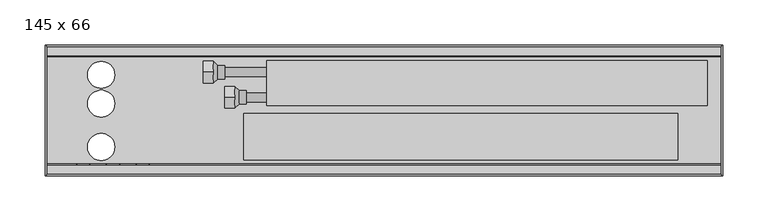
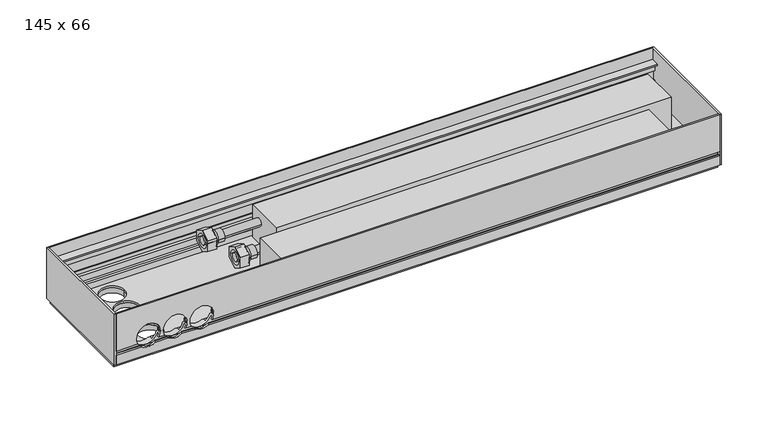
"""IFC4 building model written with IfcOpenShell, lengths in millimetres: proxy geometry, Mohlenhof_Внутрипольный конвектор_QSKM : 145 x 66."""

from ifc_helpers import new_model, si_unit, point, frame, frame_2d, origin, place, context, project, spatial, polyline, circle_curve, ellipse_curve, trimmed, segment, composite_curve, outline, extrude, source, transform, mapped, element, save
from ifc_brep_helpers import plane_surface, cylinder_surface, revolved_surface, advanced_brep


def proxy_145_x_66_6c518053(model_context):
    return source(origin(), model_context, "Body", "SolidModel", [
        advanced_brep(
        [(-165.0, -158.0, -47.5), (-165.0, -146.0, -47.5), (-165.0, -170.0, -47.5), (-152.5, -165.5, -47.5), (-152.5, -150.5, -47.5), (-152.5, -158.0, -47.5), (-160.0, -165.5, -47.5), (-160.0, -150.5, -47.5)],
        [
            (0, 1),
            (1, 2, circle_curve(frame((-165.0, -158.0, -47.5), z_axis=(-1.0, 0.0, 0.0), x_axis=(0.0, 1.0, 0.0)), 12.0)),
            (2, 0),
            (2, 1, circle_curve(frame((-165.0, -158.0, -47.5), z_axis=(-1.0, 0.0, 0.0), x_axis=(0.0, 1.0, 0.0)), 12.0)),
            (3, 4, circle_curve(frame((-152.5, -158.0, -47.5), z_axis=(1.0, 0.0, 0.0), x_axis=(0.0, 1.0, 0.0)), 7.5)),
            (4, 5),
            (5, 3),
            (4, 3, circle_curve(frame((-152.5, -158.0, -47.5), z_axis=(1.0, 0.0, 0.0), x_axis=(0.0, 1.0, 0.0)), 7.5)),
            (6, 7, circle_curve(frame((-160.0, -158.0, -47.5), z_axis=(1.0, 0.0, 0.0), x_axis=(0.0, 1.0, 0.0)), 7.5)),
            (7, 4),
            (3, 6),
            (7, 6, circle_curve(frame((-160.0, -158.0, -47.5), z_axis=(1.0, 0.0, 0.0), x_axis=(0.0, 1.0, 0.0)), 7.5)),
            (1, 7),
            (6, 2),
        ],
        [
            plane_surface(frame((-165.0, -158.0, -47.5), z_axis=(-1.0, 0.0, 0.0), x_axis=(0.0, 1.0, 0.0))),
            plane_surface(frame((-152.5, -158.0, -47.5), z_axis=(1.0, 0.0, 0.0), x_axis=(0.0, 1.0, 0.0))),
            cylinder_surface(frame((-165.0, -158.0, -47.5), z_axis=(-1.0, 0.0, 0.0), x_axis=(0.0, 1.0, 0.0)), 7.5),
            revolved_surface(polyline([(-160.0, -150.5, -47.5), (-165.0, -146.0, -47.5)]), (-165.0, -158.0, -47.5), (-1.0, 0.0, 0.0)),
        ],
        [
            (0, [[1, 2, 3]]),
            (0, [[-3, 4, -1]]),
            (1, [[5, 6, 7]]),
            (1, [[8, -7, -6]]),
            (2, [[9, 10, -5, 11]]),
            (2, [[12, -11, -8, -10]]),
            (3, [[-2, 13, -9, 14]]),
            (3, [[-4, -14, -12, -13]]),
        ],
    ),
        extrude(outline(polyline([(-158.0, -33.6435935), (-146.0, -40.5717968), (-146.0, -54.4282032), (-158.0, -61.3564065), (-170.0, -54.4282032), (-170.0, -40.5717968), (-158.0, -33.6435935)]), holes=[composite_curve([segment(trimmed(circle_curve(frame_2d((-158.0, -47.5)), 8.5), [point((-149.5, -47.5))], [point((-166.5, -47.5))], True, "CARTESIAN"), True, "CONTINUOUS"), segment(trimmed(circle_curve(frame_2d((-158.0, -47.5)), 8.5), [point((-166.5, -47.5))], [point((-149.5, -47.5))], True, "CARTESIAN"), True, "CONTINUOUS")], self_intersect=False)]), frame((-176.0, 0.0, 0.0), z_axis=(1.0, 0.0, 0.0), x_axis=(0.0, 1.0, 0.0)), (0.0, 0.0, 1.0), 11.0),
        advanced_brep(
        [(-189.0, -130.0, -34.5), (-189.0, -118.0, -34.5), (-189.0, -142.0, -34.5), (-176.5, -137.5, -34.5), (-176.5, -122.5, -34.5), (-176.5, -130.0, -34.5), (-184.0, -137.5, -34.5), (-184.0, -122.5, -34.5)],
        [
            (0, 1),
            (1, 2, circle_curve(frame((-189.0, -130.0, -34.5), z_axis=(-1.0, 0.0, 0.0), x_axis=(0.0, 1.0, 0.0)), 12.0)),
            (2, 0),
            (2, 1, circle_curve(frame((-189.0, -130.0, -34.5), z_axis=(-1.0, 0.0, 0.0), x_axis=(0.0, 1.0, 0.0)), 12.0)),
            (3, 4, circle_curve(frame((-176.5, -130.0, -34.5), z_axis=(1.0, 0.0, 0.0), x_axis=(0.0, 1.0, 0.0)), 7.5)),
            (4, 5),
            (5, 3),
            (4, 3, circle_curve(frame((-176.5, -130.0, -34.5), z_axis=(1.0, 0.0, 0.0), x_axis=(0.0, 1.0, 0.0)), 7.5)),
            (6, 7, circle_curve(frame((-184.0, -130.0, -34.5), z_axis=(1.0, 0.0, 0.0), x_axis=(0.0, 1.0, 0.0)), 7.5)),
            (7, 4),
            (3, 6),
            (7, 6, circle_curve(frame((-184.0, -130.0, -34.5), z_axis=(1.0, 0.0, 0.0), x_axis=(0.0, 1.0, 0.0)), 7.5)),
            (1, 7),
            (6, 2),
        ],
        [
            plane_surface(frame((-189.0, -130.0, -34.5), z_axis=(-1.0, 0.0, 0.0), x_axis=(0.0, 1.0, 0.0))),
            plane_surface(frame((-176.5, -130.0, -34.5), z_axis=(1.0, 0.0, 0.0), x_axis=(0.0, 1.0, 0.0))),
            cylinder_surface(frame((-189.0, -130.0, -34.5), z_axis=(-1.0, 0.0, 0.0), x_axis=(0.0, 1.0, 0.0)), 7.5),
            revolved_surface(polyline([(-184.0, -122.5, -34.5), (-189.0, -118.0, -34.5)]), (-189.0, -130.0, -34.5), (-1.0, 0.0, 0.0)),
        ],
        [
            (0, [[1, 2, 3]]),
            (0, [[-3, 4, -1]]),
            (1, [[5, 6, 7]]),
            (1, [[8, -7, -6]]),
            (2, [[9, 10, -5, 11]]),
            (2, [[12, -11, -8, -10]]),
            (3, [[-2, 13, -9, 14]]),
            (3, [[-4, -14, -12, -13]]),
        ],
    ),
        extrude(outline(polyline([(-130.0, -20.6435935), (-118.0, -27.5717968), (-118.0, -41.4282032), (-130.0, -48.3564065), (-142.0, -41.4282032), (-142.0, -27.5717968), (-130.0, -20.6435935)]), holes=[composite_curve([segment(trimmed(circle_curve(frame_2d((-130.0, -34.5)), 8.5), [point((-121.5, -34.5))], [point((-138.5, -34.5))], True, "CARTESIAN"), True, "CONTINUOUS"), segment(trimmed(circle_curve(frame_2d((-130.0, -34.5)), 8.5), [point((-138.5, -34.5))], [point((-121.5, -34.5))], True, "CARTESIAN"), True, "CONTINUOUS")], self_intersect=False)]), frame((-200.0, 0.0, 0.0), z_axis=(1.0, 0.0, 0.0), x_axis=(0.0, 1.0, 0.0)), (0.0, 0.0, 1.0), 11.0),
        extrude(outline(composite_curve([segment(trimmed(circle_curve(frame_2d((-350.0, -223.5)), 4.5), [point((-354.5, -223.5))], [point((-345.5, -223.5))], False, "CARTESIAN"), True, "CONTINUOUS"), segment(trimmed(circle_curve(frame_2d((-350.0, -223.5)), 4.5), [point((-345.5, -223.5))], [point((-354.5, -223.5))], False, "CARTESIAN"), True, "CONTINUOUS")], self_intersect=False)), frame((0.0, 0.0, -79.0), z_axis=(0.0, 0.0, 1.0), x_axis=(1.0, 0.0, 0.0)), (0.0, 0.0, 1.0), 7.0),
        extrude(outline(composite_curve([segment(trimmed(circle_curve(frame_2d((-350.0, -223.5)), 4.0), [point((-354.0, -223.5))], [point((-346.0, -223.5))], False, "CARTESIAN"), True, "CONTINUOUS"), segment(trimmed(circle_curve(frame_2d((-350.0, -223.5)), 4.0), [point((-346.0, -223.5))], [point((-354.0, -223.5))], False, "CARTESIAN"), True, "CONTINUOUS")], self_intersect=False)), frame((0.0, 0.0, -72.0), z_axis=(0.0, 0.0, 1.0), x_axis=(1.0, 0.0, 0.0)), (0.0, 0.0, 1.0), 1.5),
        extrude(outline(composite_curve([segment(trimmed(circle_curve(frame_2d((-350.0, -121.5)), 4.5), [point((-354.5, -121.5))], [point((-345.5, -121.5))], False, "CARTESIAN"), True, "CONTINUOUS"), segment(trimmed(circle_curve(frame_2d((-350.0, -121.5)), 4.5), [point((-345.5, -121.5))], [point((-354.5, -121.5))], False, "CARTESIAN"), True, "CONTINUOUS")], self_intersect=False)), frame((0.0, 0.0, -79.0), z_axis=(0.0, 0.0, 1.0), x_axis=(1.0, 0.0, 0.0)), (0.0, 0.0, 1.0), 7.0),
        extrude(outline(composite_curve([segment(trimmed(circle_curve(frame_2d((-350.0, -121.5)), 4.0), [point((-354.0, -121.5))], [point((-346.0, -121.5))], False, "CARTESIAN"), True, "CONTINUOUS"), segment(trimmed(circle_curve(frame_2d((-350.0, -121.5)), 4.0), [point((-346.0, -121.5))], [point((-354.0, -121.5))], False, "CARTESIAN"), True, "CONTINUOUS")], self_intersect=False)), frame((0.0, 0.0, -72.0), z_axis=(0.0, 0.0, 1.0), x_axis=(1.0, 0.0, 0.0)), (0.0, 0.0, 1.0), 1.5),
        extrude(outline(composite_curve([segment(trimmed(circle_curve(frame_2d((350.0, -223.5)), 4.5), [point((345.5, -223.5))], [point((354.5, -223.5))], False, "CARTESIAN"), True, "CONTINUOUS"), segment(trimmed(circle_curve(frame_2d((350.0, -223.5)), 4.5), [point((354.5, -223.5))], [point((345.5, -223.5))], False, "CARTESIAN"), True, "CONTINUOUS")], self_intersect=False)), frame((0.0, 0.0, -79.0), z_axis=(0.0, 0.0, 1.0), x_axis=(1.0, 0.0, 0.0)), (0.0, 0.0, 1.0), 7.0),
        extrude(outline(composite_curve([segment(trimmed(circle_curve(frame_2d((350.0, -223.5)), 4.0), [point((346.0, -223.5))], [point((354.0, -223.5))], False, "CARTESIAN"), True, "CONTINUOUS"), segment(trimmed(circle_curve(frame_2d((350.0, -223.5)), 4.0), [point((354.0, -223.5))], [point((346.0, -223.5))], False, "CARTESIAN"), True, "CONTINUOUS")], self_intersect=False)), frame((0.0, 0.0, -72.0), z_axis=(0.0, 0.0, 1.0), x_axis=(1.0, 0.0, 0.0)), (0.0, 0.0, 1.0), 1.5),
        extrude(outline(composite_curve([segment(trimmed(circle_curve(frame_2d((350.0, -121.5)), 4.5), [point((345.5, -121.5))], [point((354.5, -121.5))], False, "CARTESIAN"), True, "CONTINUOUS"), segment(trimmed(circle_curve(frame_2d((350.0, -121.5)), 4.5), [point((354.5, -121.5))], [point((345.5, -121.5))], False, "CARTESIAN"), True, "CONTINUOUS")], self_intersect=False)), frame((0.0, 0.0, -79.0), z_axis=(0.0, 0.0, 1.0), x_axis=(1.0, 0.0, 0.0)), (0.0, 0.0, 1.0), 7.0),
        extrude(outline(composite_curve([segment(trimmed(circle_curve(frame_2d((350.0, -121.5)), 4.0), [point((346.0, -121.5))], [point((354.0, -121.5))], False, "CARTESIAN"), True, "CONTINUOUS"), segment(trimmed(circle_curve(frame_2d((350.0, -121.5)), 4.0), [point((354.0, -121.5))], [point((346.0, -121.5))], False, "CARTESIAN"), True, "CONTINUOUS")], self_intersect=False)), frame((0.0, 0.0, -72.0), z_axis=(0.0, 0.0, 1.0), x_axis=(1.0, 0.0, 0.0)), (0.0, 0.0, 1.0), 1.5),
        extrude(outline(polyline([(325.0, -175.87), (325.0, -227.18), (-155.0, -227.18), (-155.0, -175.87), (325.0, -175.87)])), frame((0.0, 0.0, -62.5), z_axis=(0.0, 0.0, 1.0), x_axis=(1.0, 0.0, 0.0)), (0.0, 0.0, 1.0), 43.62),
        extrude(outline(composite_curve([segment(trimmed(circle_curve(frame_2d((-158.0, -47.5)), 5.0), [point((-163.0, -47.5))], [point((-153.0, -47.5))], False, "CARTESIAN"), True, "CONTINUOUS"), segment(trimmed(circle_curve(frame_2d((-158.0, -47.5)), 5.0), [point((-153.0, -47.5))], [point((-163.0, -47.5))], False, "CARTESIAN"), True, "CONTINUOUS")], self_intersect=False)), frame((-176.0, 0.0, 0.0), z_axis=(1.0, 0.0, 0.0), x_axis=(0.0, 1.0, 0.0)), (0.0, 0.0, 1.0), 46.0),
        extrude(outline(composite_curve([segment(trimmed(circle_curve(frame_2d((-130.0, -34.5)), 5.0), [point((-135.0, -34.5))], [point((-125.0, -34.5))], False, "CARTESIAN"), True, "CONTINUOUS"), segment(trimmed(circle_curve(frame_2d((-130.0, -34.5)), 5.0), [point((-125.0, -34.5))], [point((-135.0, -34.5))], False, "CARTESIAN"), True, "CONTINUOUS")], self_intersect=False)), frame((-200.0, 0.0, 0.0), z_axis=(1.0, 0.0, 0.0), x_axis=(0.0, 1.0, 0.0)), (0.0, 0.0, 1.0), 70.0),
        advanced_brep(
        [(373.0, -245.0, -48.5473602), (373.0, -243.5, -49.2468216), (373.0, -242.5, -49.2468216), (373.0, -242.5, -46.0008038), (373.0, -240.0, -46.0008038), (373.0, -240.0, -56.5008038), (373.0, -242.5, -56.5008038), (373.0, -242.5, -53.2468216), (373.0, -243.5, -53.2468216), (373.0, -245.0, -53.9462831), (373.0, -245.0, -66.5), (373.0, -241.0, -66.5), (373.0, -241.0, -65.2), (373.0, -243.0, -65.2), (373.0, -243.0, -62.5), (373.0, -232.0, -62.5), (373.0, -232.0, -54.9172677), (373.0, -233.4172677, -53.5), (373.0, -237.0, -53.5), (373.0, -237.0, -45.91), (373.0, -239.0, -43.91), (373.0, -239.0, -39.5), (373.0, -240.0, -39.5), (373.0, -240.0, -43.5), (373.0, -242.4956439, -43.5), (373.0, -242.4956439, -23.0), (373.0, -240.0, -23.0), (373.0, -240.0, -27.0), (373.0, -239.0, -27.0), (373.0, -239.0, -17.0), (373.0, -233.3956439, -17.0), (373.0, -233.3956439, -15.0), (373.0, -243.4, -15.0), (373.0, -243.4, 0.0), (373.0, -245.0, 0.0), (-373.0, -245.0, -48.5473602), (-373.0, -245.0, 0.0), (-373.0, -243.4, 0.0), (-373.0, -243.4, -15.0), (-373.0, -233.3956439, -15.0), (-373.0, -233.3956439, -17.0), (-373.0, -239.0, -17.0), (-373.0, -239.0, -27.0), (-373.0, -240.0, -27.0), (-373.0, -240.0, -23.0), (-373.0, -242.4956439, -23.0), (-373.0, -242.4956439, -43.5), (-373.0, -240.0, -43.5), (-373.0, -240.0, -39.5), (-373.0, -239.0, -39.5), (-373.0, -239.0, -43.91), (-373.0, -237.0, -45.91), (-373.0, -237.0, -53.5), (-373.0, -233.4172677, -53.5), (-373.0, -232.0, -54.9172677), (-373.0, -232.0, -62.5), (-373.0, -243.0, -62.5), (-373.0, -243.0, -65.2), (-373.0, -241.0, -65.2), (-373.0, -241.0, -66.5), (-373.0, -245.0, -66.5), (-373.0, -245.0, -53.9462831), (-373.0, -243.5, -53.2468216), (-373.0, -242.5, -53.2468216), (-373.0, -242.5, -56.5008038), (-373.0, -240.0, -56.5008038), (-373.0, -240.0, -46.0008038), (-373.0, -242.5, -46.0008038), (-373.0, -242.5, -49.2468216), (-373.0, -243.5, -49.2468216), (-253.7585985, -245.0, -48.5473602), (-254.155283, -243.5, -49.2468216), (-345.844717, -243.5, -49.2468216), (-346.2414015, -245.0, -48.5473602), (-313.2414015, -245.0, -48.5473602), (-319.7585985, -245.0, -48.5473602), (-320.155283, -243.5, -49.2468216), (-312.844717, -243.5, -49.2468216), (-280.2414015, -245.0, -48.5473602), (-286.7585985, -245.0, -48.5473602), (-287.155283, -243.5, -49.2468216), (-279.844717, -243.5, -49.2468216), (-254.155283, -242.5, -49.2468216), (-345.844717, -242.5, -49.2468216), (-320.155283, -242.5, -49.2468216), (-312.844717, -242.5, -49.2468216), (-287.155283, -242.5, -49.2468216), (-279.844717, -242.5, -49.2468216), (-252.6911648, -242.5, -46.0008038), (-347.3088352, -242.5, -46.0008038), (-318.6911648, -242.5, -46.0008038), (-314.3088352, -242.5, -46.0008038), (-285.6911648, -242.5, -46.0008038), (-281.3088352, -242.5, -46.0008038), (-252.6911648, -240.0, -46.0008038), (-347.3088352, -240.0, -46.0008038), (-318.6911648, -240.0, -46.0008038), (-314.3088352, -240.0, -46.0008038), (-285.6911648, -240.0, -46.0008038), (-281.3088352, -240.0, -46.0008038), (-342.328032, -242.5, -53.2468216), (-323.671968, -242.5, -53.2468216), (-309.328032, -242.5, -53.2468216), (-290.671968, -242.5, -53.2468216), (-276.328032, -242.5, -53.2468216), (-257.671968, -242.5, -53.2468216), (-257.671968, -243.5, -53.2468216), (-342.328032, -243.5, -53.2468216), (-323.671968, -243.5, -53.2468216), (-309.328032, -243.5, -53.2468216), (-290.671968, -243.5, -53.2468216), (-276.328032, -243.5, -53.2468216), (-258.6280208, -245.0, -53.9462831), (-341.3719792, -245.0, -53.9462831), (-324.6280208, -245.0, -53.9462831), (-308.3719792, -245.0, -53.9462831), (-291.6280208, -245.0, -53.9462831), (-275.3719792, -245.0, -53.9462831), (-339.7064841, -232.0, -54.9172677), (-326.2935159, -232.0, -54.9172677), (-306.7064841, -232.0, -54.9172677), (-293.2935159, -232.0, -54.9172677), (-273.7064841, -232.0, -54.9172677), (-260.2935159, -232.0, -54.9172677), (-258.0, -233.4172677, -53.5), (-342.0, -233.4172677, -53.5), (-324.0, -233.4172677, -53.5), (-309.0, -233.4172677, -53.5), (-291.0, -233.4172677, -53.5), (-276.0, -233.4172677, -53.5), (-258.0, -237.0, -53.5), (-342.0, -237.0, -53.5), (-324.0, -237.0, -53.5), (-309.0, -237.0, -53.5), (-291.0, -237.0, -53.5), (-276.0, -237.0, -53.5), (-252.6629187, -237.0, -45.91), (-347.3370813, -237.0, -45.91), (-318.6629187, -237.0, -45.91), (-314.3370813, -237.0, -45.91), (-285.6629187, -237.0, -45.91), (-281.3370813, -237.0, -45.91), (-252.1948691, -239.0, -43.91), (-347.8051309, -239.0, -43.91), (-318.1948691, -239.0, -43.91), (-314.8051309, -239.0, -43.91), (-285.1948691, -239.0, -43.91), (-281.8051309, -239.0, -43.91), (-252.0, -239.0, -41.5), (-252.1339313, -239.0, -39.5), (-347.8660687, -239.0, -39.5), (-348.0, -239.0, -41.5), (-318.0, -239.0, -41.5), (-318.1339313, -239.0, -39.5), (-314.8660687, -239.0, -39.5), (-315.0, -239.0, -41.5), (-285.0, -239.0, -41.5), (-285.1339313, -239.0, -39.5), (-281.8660687, -239.0, -39.5), (-282.0, -239.0, -41.5), (-252.1339313, -240.0, -39.5), (-347.8660687, -240.0, -39.5), (-318.1339313, -240.0, -39.5), (-314.8660687, -240.0, -39.5), (-285.1339313, -240.0, -39.5), (-281.8660687, -240.0, -39.5), (-252.0, -240.0, -41.5), (-252.1339313, -240.0, -43.5), (-347.8660687, -240.0, -43.5), (-348.0, -240.0, -41.5), (-318.0, -240.0, -41.5), (-318.1339313, -240.0, -43.5), (-314.8660687, -240.0, -43.5), (-315.0, -240.0, -41.5), (-285.0, -240.0, -41.5), (-285.1339313, -240.0, -43.5), (-281.8660687, -240.0, -43.5), (-282.0, -240.0, -41.5), (-252.1339313, -242.4956439, -43.5), (-347.8660687, -242.4956439, -43.5), (-318.1339313, -242.4956439, -43.5), (-314.8660687, -242.4956439, -43.5), (-285.1339313, -242.4956439, -43.5), (-281.8660687, -242.4956439, -43.5), (-252.0, -242.4956439, -41.5), (-282.0, -242.4956439, -41.5), (-285.0, -242.4956439, -41.5), (-315.0, -242.4956439, -41.5), (-318.0, -242.4956439, -41.5), (-348.0, -242.4956439, -41.5), (-336.8405729, -240.0, -27.0), (-329.1594271, -240.0, -27.0), (-303.8405729, -240.0, -27.0), (-296.1594271, -240.0, -27.0), (-270.8405729, -240.0, -27.0), (-263.1594271, -240.0, -27.0), (-263.1594271, -239.0, -27.0), (-336.8405729, -239.0, -27.0), (-329.1594271, -239.0, -27.0), (-303.8405729, -239.0, -27.0), (-296.1594271, -239.0, -27.0), (-270.8405729, -239.0, -27.0), (-348.0, -245.0, -41.5), (-318.0, -245.0, -41.5), (-315.0, -245.0, -41.5), (-285.0, -245.0, -41.5), (-282.0, -245.0, -41.5), (-252.0, -245.0, -41.5)],
        [
            (0, 1),
            (1, 2),
            (2, 3),
            (3, 4),
            (4, 5),
            (5, 6),
            (6, 7),
            (7, 8),
            (8, 9),
            (9, 10),
            (10, 11),
            (11, 12),
            (12, 13),
            (13, 14),
            (14, 15),
            (15, 16),
            (16, 17),
            (17, 18),
            (18, 19),
            (19, 20),
            (20, 21),
            (21, 22),
            (22, 23),
            (23, 24),
            (24, 25),
            (25, 26),
            (26, 27),
            (27, 28),
            (28, 29),
            (29, 30),
            (30, 31),
            (31, 32),
            (32, 33),
            (33, 34),
            (34, 0),
            (35, 36),
            (36, 37),
            (37, 38),
            (38, 39),
            (39, 40),
            (40, 41),
            (41, 42),
            (42, 43),
            (43, 44),
            (44, 45),
            (45, 46),
            (46, 47),
            (47, 48),
            (48, 49),
            (49, 50),
            (50, 51),
            (51, 52),
            (52, 53),
            (53, 54),
            (54, 55),
            (55, 56),
            (56, 57),
            (57, 58),
            (58, 59),
            (59, 60),
            (60, 61),
            (61, 62),
            (62, 63),
            (63, 64),
            (64, 65),
            (65, 66),
            (66, 67),
            (67, 68),
            (68, 69),
            (69, 35),
            (0, 70),
            (70, 71, ellipse_curve(frame((-267.0, -260.1131126, -41.5), z_axis=(0.0, 0.42261826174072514, 0.9063077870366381), x_axis=(0.0, -0.9063077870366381, 0.42261826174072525)), 35.4930237, 15.0)),
            (71, 1),
            (69, 72),
            (72, 73, ellipse_curve(frame((-333.0, -260.1131126, -41.5), z_axis=(0.0, 0.42261826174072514, 0.9063077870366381), x_axis=(0.0, -0.9063077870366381, 0.42261826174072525)), 35.4930237, 15.0)),
            (73, 35),
            (74, 75),
            (75, 76, ellipse_curve(frame((-333.0, -260.1131126, -41.5), z_axis=(0.0, 0.42261826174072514, 0.9063077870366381), x_axis=(0.0, -0.9063077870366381, 0.42261826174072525)), 35.4930237, 15.0)),
            (76, 77),
            (77, 74, ellipse_curve(frame((-300.0, -260.1131126, -41.5), z_axis=(0.0, 0.42261826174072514, 0.9063077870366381), x_axis=(0.0, -0.9063077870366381, 0.42261826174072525)), 35.4930237, 15.0)),
            (78, 79),
            (79, 80, ellipse_curve(frame((-300.0, -260.1131126, -41.5), z_axis=(0.0, 0.42261826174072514, 0.9063077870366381), x_axis=(0.0, -0.9063077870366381, 0.42261826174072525)), 35.4930237, 15.0)),
            (80, 81),
            (81, 78, ellipse_curve(frame((-267.0, -260.1131126, -41.5), z_axis=(0.0, 0.42261826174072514, 0.9063077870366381), x_axis=(0.0, -0.9063077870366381, 0.42261826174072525)), 35.4930237, 15.0)),
            (71, 82),
            (82, 2),
            (68, 83),
            (83, 72),
            (76, 84),
            (84, 85),
            (85, 77),
            (80, 86),
            (86, 87),
            (87, 81),
            (82, 88, circle_curve(frame((-267.0, -242.5, -41.5), z_axis=(0.0, -1.0, 0.0), x_axis=(1.0, 0.0, 0.0)), 15.0)),
            (88, 3),
            (67, 89),
            (89, 83, circle_curve(frame((-333.0, -242.5, -41.5), z_axis=(0.0, -1.0, 0.0), x_axis=(1.0, 0.0, 0.0)), 15.0)),
            (84, 90, circle_curve(frame((-333.0, -242.5, -41.5), z_axis=(0.0, -1.0, 0.0), x_axis=(1.0, 0.0, 0.0)), 15.0)),
            (90, 91),
            (91, 85, circle_curve(frame((-300.0, -242.5, -41.5), z_axis=(0.0, -1.0, 0.0), x_axis=(1.0, 0.0, 0.0)), 15.0)),
            (86, 92, circle_curve(frame((-300.0, -242.5, -41.5), z_axis=(0.0, -1.0, 0.0), x_axis=(1.0, 0.0, 0.0)), 15.0)),
            (92, 93),
            (93, 87, circle_curve(frame((-267.0, -242.5, -41.5), z_axis=(0.0, -1.0, 0.0), x_axis=(1.0, 0.0, 0.0)), 15.0)),
            (88, 94),
            (94, 4),
            (66, 95),
            (95, 89),
            (90, 96),
            (96, 97),
            (97, 91),
            (92, 98),
            (98, 99),
            (99, 93),
            (94, 99, circle_curve(frame((-267.0, -240.0, -41.5), z_axis=(0.0, 1.0, 0.0), x_axis=(1.0, 0.0, 0.0)), 15.0)),
            (98, 97, circle_curve(frame((-300.0, -240.0, -41.5), z_axis=(0.0, 1.0, 0.0), x_axis=(1.0, 0.0, 0.0)), 15.0)),
            (96, 95, circle_curve(frame((-333.0, -240.0, -41.5), z_axis=(0.0, 1.0, 0.0), x_axis=(1.0, 0.0, 0.0)), 15.0)),
            (65, 5),
            (64, 6),
            (63, 100),
            (100, 101, circle_curve(frame((-333.0, -242.5, -41.5), z_axis=(0.0, -1.0, 0.0), x_axis=(1.0, 0.0, 0.0)), 15.0)),
            (101, 102),
            (102, 103, circle_curve(frame((-300.0, -242.5, -41.5), z_axis=(0.0, -1.0, 0.0), x_axis=(1.0, 0.0, 0.0)), 15.0)),
            (103, 104),
            (104, 105, circle_curve(frame((-267.0, -242.5, -41.5), z_axis=(0.0, -1.0, 0.0), x_axis=(1.0, 0.0, 0.0)), 15.0)),
            (105, 7),
            (105, 106),
            (106, 8),
            (62, 107),
            (107, 100),
            (101, 108),
            (108, 109),
            (109, 102),
            (103, 110),
            (110, 111),
            (111, 104),
            (106, 112, ellipse_curve(frame((-267.0, -218.3088597, -41.5), z_axis=(0.0, 0.42261826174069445, -0.9063077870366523), x_axis=(0.0, -0.9063077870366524, -0.42261826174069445)), 35.4930237, 15.0)),
            (112, 9),
            (61, 113),
            (113, 107, ellipse_curve(frame((-333.0, -218.3088597, -41.5), z_axis=(0.0, 0.42261826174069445, -0.9063077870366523), x_axis=(0.0, -0.9063077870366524, -0.42261826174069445)), 35.4930237, 15.0)),
            (108, 114, ellipse_curve(frame((-333.0, -218.3088597, -41.5), z_axis=(0.0, 0.42261826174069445, -0.9063077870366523), x_axis=(0.0, -0.9063077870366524, -0.42261826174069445)), 35.4930237, 15.0)),
            (114, 115),
            (115, 109, ellipse_curve(frame((-300.0, -218.3088597, -41.5), z_axis=(0.0, 0.42261826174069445, -0.9063077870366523), x_axis=(0.0, -0.9063077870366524, -0.42261826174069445)), 35.4930237, 15.0)),
            (110, 116, ellipse_curve(frame((-300.0, -218.3088597, -41.5), z_axis=(0.0, 0.42261826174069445, -0.9063077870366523), x_axis=(0.0, -0.9063077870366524, -0.42261826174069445)), 35.4930237, 15.0)),
            (116, 117),
            (117, 111, ellipse_curve(frame((-267.0, -218.3088597, -41.5), z_axis=(0.0, 0.42261826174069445, -0.9063077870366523), x_axis=(0.0, -0.9063077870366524, -0.42261826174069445)), 35.4930237, 15.0)),
            (112, 117, circle_curve(frame((-267.0, -245.0, -41.5), z_axis=(0.0, 1.0, 0.0), x_axis=(1.0, 0.0, 0.0)), 15.0)),
            (116, 115, circle_curve(frame((-300.0, -245.0, -41.5), z_axis=(0.0, 1.0, 0.0), x_axis=(1.0, 0.0, 0.0)), 15.0)),
            (114, 113, circle_curve(frame((-333.0, -245.0, -41.5), z_axis=(0.0, 1.0, 0.0), x_axis=(1.0, 0.0, 0.0)), 15.0)),
            (60, 10),
            (59, 11),
            (58, 12),
            (57, 13),
            (56, 14),
            (55, 15),
            (54, 118),
            (118, 119, circle_curve(frame((-333.0, -232.0, -41.5), z_axis=(0.0, -1.0, 0.0), x_axis=(1.0, 0.0, 0.0)), 15.0)),
            (119, 120),
            (120, 121, circle_curve(frame((-300.0, -232.0, -41.5), z_axis=(0.0, -1.0, 0.0), x_axis=(1.0, 0.0, 0.0)), 15.0)),
            (121, 122),
            (122, 123, circle_curve(frame((-267.0, -232.0, -41.5), z_axis=(0.0, -1.0, 0.0), x_axis=(1.0, 0.0, 0.0)), 15.0)),
            (123, 16),
            (123, 124, ellipse_curve(frame((-267.0, -245.4172677, -41.5), z_axis=(0.0, -0.7071067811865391, -0.707106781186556), x_axis=(0.0, -0.7071067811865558, 0.7071067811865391)), 21.2132034, 15.0)),
            (124, 17),
            (53, 125),
            (125, 118, ellipse_curve(frame((-333.0, -245.4172677, -41.5), z_axis=(0.0, -0.7071067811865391, -0.707106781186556), x_axis=(0.0, -0.7071067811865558, 0.7071067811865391)), 21.2132034, 15.0)),
            (119, 126, ellipse_curve(frame((-333.0, -245.4172677, -41.5), z_axis=(0.0, -0.7071067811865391, -0.707106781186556), x_axis=(0.0, -0.7071067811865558, 0.7071067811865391)), 21.2132034, 15.0)),
            (126, 127),
            (127, 120, ellipse_curve(frame((-300.0, -245.4172677, -41.5), z_axis=(0.0, -0.7071067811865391, -0.707106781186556), x_axis=(0.0, -0.7071067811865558, 0.7071067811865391)), 21.2132034, 15.0)),
            (121, 128, ellipse_curve(frame((-300.0, -245.4172677, -41.5), z_axis=(0.0, -0.7071067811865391, -0.707106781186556), x_axis=(0.0, -0.7071067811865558, 0.7071067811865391)), 21.2132034, 15.0)),
            (128, 129),
            (129, 122, ellipse_curve(frame((-267.0, -245.4172677, -41.5), z_axis=(0.0, -0.7071067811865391, -0.707106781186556), x_axis=(0.0, -0.7071067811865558, 0.7071067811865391)), 21.2132034, 15.0)),
            (124, 130),
            (130, 18),
            (52, 131),
            (131, 125),
            (126, 132),
            (132, 133),
            (133, 127),
            (128, 134),
            (134, 135),
            (135, 129),
            (130, 136, circle_curve(frame((-267.0, -237.0, -41.5), z_axis=(0.0, -1.0, 0.0), x_axis=(1.0, 0.0, 0.0)), 15.0)),
            (136, 19),
            (51, 137),
            (137, 131, circle_curve(frame((-333.0, -237.0, -41.5), z_axis=(0.0, -1.0, 0.0), x_axis=(1.0, 0.0, 0.0)), 15.0)),
            (132, 138, circle_curve(frame((-333.0, -237.0, -41.5), z_axis=(0.0, -1.0, 0.0), x_axis=(1.0, 0.0, 0.0)), 15.0)),
            (138, 139),
            (139, 133, circle_curve(frame((-300.0, -237.0, -41.5), z_axis=(0.0, -1.0, 0.0), x_axis=(1.0, 0.0, 0.0)), 15.0)),
            (134, 140, circle_curve(frame((-300.0, -237.0, -41.5), z_axis=(0.0, -1.0, 0.0), x_axis=(1.0, 0.0, 0.0)), 15.0)),
            (140, 141),
            (141, 135, circle_curve(frame((-267.0, -237.0, -41.5), z_axis=(0.0, -1.0, 0.0), x_axis=(1.0, 0.0, 0.0)), 15.0)),
            (136, 142, ellipse_curve(frame((-267.0, -241.41, -41.5), z_axis=(0.0, -0.7071067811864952, -0.7071067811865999), x_axis=(0.0, -0.7071067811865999, 0.7071067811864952)), 21.2132034, 15.0)),
            (142, 20),
            (50, 143),
            (143, 137, ellipse_curve(frame((-333.0, -241.41, -41.5), z_axis=(0.0, -0.7071067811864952, -0.7071067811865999), x_axis=(0.0, -0.7071067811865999, 0.7071067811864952)), 21.2132034, 15.0)),
            (138, 144, ellipse_curve(frame((-333.0, -241.41, -41.5), z_axis=(0.0, -0.7071067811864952, -0.7071067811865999), x_axis=(0.0, -0.7071067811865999, 0.7071067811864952)), 21.2132034, 15.0)),
            (144, 145),
            (145, 139, ellipse_curve(frame((-300.0, -241.41, -41.5), z_axis=(0.0, -0.7071067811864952, -0.7071067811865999), x_axis=(0.0, -0.7071067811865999, 0.7071067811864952)), 21.2132034, 15.0)),
            (140, 146, ellipse_curve(frame((-300.0, -241.41, -41.5), z_axis=(0.0, -0.7071067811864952, -0.7071067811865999), x_axis=(0.0, -0.7071067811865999, 0.7071067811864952)), 21.2132034, 15.0)),
            (146, 147),
            (147, 141, ellipse_curve(frame((-267.0, -241.41, -41.5), z_axis=(0.0, -0.7071067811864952, -0.7071067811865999), x_axis=(0.0, -0.7071067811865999, 0.7071067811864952)), 21.2132034, 15.0)),
            (142, 148, circle_curve(frame((-267.0, -239.0, -41.5), z_axis=(0.0, -1.0, 0.0), x_axis=(1.0, 0.0, 0.0)), 15.0)),
            (148, 149, circle_curve(frame((-267.0, -239.0, -41.5), z_axis=(0.0, -1.0, 0.0), x_axis=(1.0, 0.0, 0.0)), 15.0)),
            (149, 21),
            (49, 150),
            (150, 151, circle_curve(frame((-333.0, -239.0, -41.5), z_axis=(0.0, -1.0, 0.0), x_axis=(1.0, 0.0, 0.0)), 15.0)),
            (151, 143, circle_curve(frame((-333.0, -239.0, -41.5), z_axis=(0.0, -1.0, 0.0), x_axis=(1.0, 0.0, 0.0)), 15.0)),
            (144, 152, circle_curve(frame((-333.0, -239.0, -41.5), z_axis=(0.0, -1.0, 0.0), x_axis=(1.0, 0.0, 0.0)), 15.0)),
            (152, 153, circle_curve(frame((-333.0, -239.0, -41.5), z_axis=(0.0, -1.0, 0.0), x_axis=(1.0, 0.0, 0.0)), 15.0)),
            (153, 154),
            (154, 155, circle_curve(frame((-300.0, -239.0, -41.5), z_axis=(0.0, -1.0, 0.0), x_axis=(1.0, 0.0, 0.0)), 15.0)),
            (155, 145, circle_curve(frame((-300.0, -239.0, -41.5), z_axis=(0.0, -1.0, 0.0), x_axis=(1.0, 0.0, 0.0)), 15.0)),
            (146, 156, circle_curve(frame((-300.0, -239.0, -41.5), z_axis=(0.0, -1.0, 0.0), x_axis=(1.0, 0.0, 0.0)), 15.0)),
            (156, 157, circle_curve(frame((-300.0, -239.0, -41.5), z_axis=(0.0, -1.0, 0.0), x_axis=(1.0, 0.0, 0.0)), 15.0)),
            (157, 158),
            (158, 159, circle_curve(frame((-267.0, -239.0, -41.5), z_axis=(0.0, -1.0, 0.0), x_axis=(1.0, 0.0, 0.0)), 15.0)),
            (159, 147, circle_curve(frame((-267.0, -239.0, -41.5), z_axis=(0.0, -1.0, 0.0), x_axis=(1.0, 0.0, 0.0)), 15.0)),
            (149, 160),
            (160, 22),
            (48, 161),
            (161, 150),
            (153, 162),
            (162, 163),
            (163, 154),
            (157, 164),
            (164, 165),
            (165, 158),
            (160, 166, circle_curve(frame((-267.0, -240.0, -41.5), z_axis=(0.0, 1.0, 0.0), x_axis=(1.0, 0.0, 0.0)), 15.0)),
            (166, 167, circle_curve(frame((-267.0, -240.0, -41.5), z_axis=(0.0, 1.0, 0.0), x_axis=(1.0, 0.0, 0.0)), 15.0)),
            (167, 23),
            (47, 168),
            (168, 169, circle_curve(frame((-333.0, -240.0, -41.5), z_axis=(0.0, 1.0, 0.0), x_axis=(1.0, 0.0, 0.0)), 15.0)),
            (169, 161, circle_curve(frame((-333.0, -240.0, -41.5), z_axis=(0.0, 1.0, 0.0), x_axis=(1.0, 0.0, 0.0)), 15.0)),
            (162, 170, circle_curve(frame((-333.0, -240.0, -41.5), z_axis=(0.0, 1.0, 0.0), x_axis=(1.0, 0.0, 0.0)), 15.0)),
            (170, 171, circle_curve(frame((-333.0, -240.0, -41.5), z_axis=(0.0, 1.0, 0.0), x_axis=(1.0, 0.0, 0.0)), 15.0)),
            (171, 172),
            (172, 173, circle_curve(frame((-300.0, -240.0, -41.5), z_axis=(0.0, 1.0, 0.0), x_axis=(1.0, 0.0, 0.0)), 15.0)),
            (173, 163, circle_curve(frame((-300.0, -240.0, -41.5), z_axis=(0.0, 1.0, 0.0), x_axis=(1.0, 0.0, 0.0)), 15.0)),
            (164, 174, circle_curve(frame((-300.0, -240.0, -41.5), z_axis=(0.0, 1.0, 0.0), x_axis=(1.0, 0.0, 0.0)), 15.0)),
            (174, 175, circle_curve(frame((-300.0, -240.0, -41.5), z_axis=(0.0, 1.0, 0.0), x_axis=(1.0, 0.0, 0.0)), 15.0)),
            (175, 176),
            (176, 177, circle_curve(frame((-267.0, -240.0, -41.5), z_axis=(0.0, 1.0, 0.0), x_axis=(1.0, 0.0, 0.0)), 15.0)),
            (177, 165, circle_curve(frame((-267.0, -240.0, -41.5), z_axis=(0.0, 1.0, 0.0), x_axis=(1.0, 0.0, 0.0)), 15.0)),
            (167, 178),
            (178, 24),
            (46, 179),
            (179, 168),
            (171, 180),
            (180, 181),
            (181, 172),
            (175, 182),
            (182, 183),
            (183, 176),
            (178, 184, circle_curve(frame((-267.0, -242.4956439, -41.5), z_axis=(0.0, -1.0, 0.0), x_axis=(1.0, 0.0, 0.0)), 15.0)),
            (184, 185, circle_curve(frame((-267.0, -242.4956439, -41.5), z_axis=(0.0, -1.0, 0.0), x_axis=(1.0, 0.0, 0.0)), 15.0)),
            (185, 183, circle_curve(frame((-267.0, -242.4956439, -41.5), z_axis=(0.0, -1.0, 0.0), x_axis=(1.0, 0.0, 0.0)), 15.0)),
            (182, 186, circle_curve(frame((-300.0, -242.4956439, -41.5), z_axis=(0.0, -1.0, 0.0), x_axis=(1.0, 0.0, 0.0)), 15.0)),
            (186, 187, circle_curve(frame((-300.0, -242.4956439, -41.5), z_axis=(0.0, -1.0, 0.0), x_axis=(1.0, 0.0, 0.0)), 15.0)),
            (187, 181, circle_curve(frame((-300.0, -242.4956439, -41.5), z_axis=(0.0, -1.0, 0.0), x_axis=(1.0, 0.0, 0.0)), 15.0)),
            (180, 188, circle_curve(frame((-333.0, -242.4956439, -41.5), z_axis=(0.0, -1.0, 0.0), x_axis=(1.0, 0.0, 0.0)), 15.0)),
            (188, 189, circle_curve(frame((-333.0, -242.4956439, -41.5), z_axis=(0.0, -1.0, 0.0), x_axis=(1.0, 0.0, 0.0)), 15.0)),
            (189, 179, circle_curve(frame((-333.0, -242.4956439, -41.5), z_axis=(0.0, -1.0, 0.0), x_axis=(1.0, 0.0, 0.0)), 15.0)),
            (45, 25),
            (44, 26),
            (43, 190),
            (190, 191, circle_curve(frame((-333.0, -240.0, -41.5), z_axis=(0.0, 1.0, 0.0), x_axis=(1.0, 0.0, 0.0)), 15.0)),
            (191, 192),
            (192, 193, circle_curve(frame((-300.0, -240.0, -41.5), z_axis=(0.0, 1.0, 0.0), x_axis=(1.0, 0.0, 0.0)), 15.0)),
            (193, 194),
            (194, 195, circle_curve(frame((-267.0, -240.0, -41.5), z_axis=(0.0, 1.0, 0.0), x_axis=(1.0, 0.0, 0.0)), 15.0)),
            (195, 27),
            (195, 196),
            (196, 28),
            (42, 197),
            (197, 190),
            (191, 198),
            (198, 199),
            (199, 192),
            (193, 200),
            (200, 201),
            (201, 194),
            (196, 201, circle_curve(frame((-267.0, -239.0, -41.5), z_axis=(0.0, -1.0, 0.0), x_axis=(1.0, 0.0, 0.0)), 15.0)),
            (200, 199, circle_curve(frame((-300.0, -239.0, -41.5), z_axis=(0.0, -1.0, 0.0), x_axis=(1.0, 0.0, 0.0)), 15.0)),
            (198, 197, circle_curve(frame((-333.0, -239.0, -41.5), z_axis=(0.0, -1.0, 0.0), x_axis=(1.0, 0.0, 0.0)), 15.0)),
            (41, 29),
            (40, 30),
            (39, 31),
            (38, 32),
            (37, 33),
            (36, 34),
            (73, 202, circle_curve(frame((-333.0, -245.0, -41.5), z_axis=(0.0, 1.0, 0.0), x_axis=(1.0, 0.0, 0.0)), 15.0)),
            (202, 203, circle_curve(frame((-333.0, -245.0, -41.5), z_axis=(0.0, 1.0, 0.0), x_axis=(1.0, 0.0, 0.0)), 15.0)),
            (203, 75, circle_curve(frame((-333.0, -245.0, -41.5), z_axis=(0.0, 1.0, 0.0), x_axis=(1.0, 0.0, 0.0)), 15.0)),
            (74, 204, circle_curve(frame((-300.0, -245.0, -41.5), z_axis=(0.0, 1.0, 0.0), x_axis=(1.0, 0.0, 0.0)), 15.0)),
            (204, 205, circle_curve(frame((-300.0, -245.0, -41.5), z_axis=(0.0, 1.0, 0.0), x_axis=(1.0, 0.0, 0.0)), 15.0)),
            (205, 79, circle_curve(frame((-300.0, -245.0, -41.5), z_axis=(0.0, 1.0, 0.0), x_axis=(1.0, 0.0, 0.0)), 15.0)),
            (78, 206, circle_curve(frame((-267.0, -245.0, -41.5), z_axis=(0.0, 1.0, 0.0), x_axis=(1.0, 0.0, 0.0)), 15.0)),
            (206, 207, circle_curve(frame((-267.0, -245.0, -41.5), z_axis=(0.0, 1.0, 0.0), x_axis=(1.0, 0.0, 0.0)), 15.0)),
            (207, 70, circle_curve(frame((-267.0, -245.0, -41.5), z_axis=(0.0, 1.0, 0.0), x_axis=(1.0, 0.0, 0.0)), 15.0)),
            (151, 169),
            (189, 202),
            (203, 188),
            (170, 152),
            (155, 173),
            (187, 204),
            (205, 186),
            (174, 156),
            (159, 177),
            (185, 206),
            (207, 184),
            (166, 148),
        ],
        [
            plane_surface(frame((373.0, -243.0, -62.5), z_axis=(1.0, 0.0, 0.0), x_axis=(0.0, 0.0, 1.0))),
            plane_surface(frame((-373.0, -243.0, -62.5), z_axis=(-1.0, 0.0, 0.0), x_axis=(0.0, 0.0, 1.0))),
            plane_surface(frame((373.0, -245.0, -48.5473602), z_axis=(0.0, -0.42261826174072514, -0.9063077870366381), x_axis=(-1.0, 0.0, 0.0))),
            plane_surface(frame((373.0, -243.5, -49.2468216), z_axis=(0.0, 0.0, -1.0), x_axis=(-1.0, 0.0, 0.0))),
            plane_surface(frame((373.0, -242.5, -49.2468216), z_axis=(0.0, 1.0, 0.0), x_axis=(-1.0, 0.0, 0.0))),
            plane_surface(frame((373.0, -242.5, -46.0008038), z_axis=(0.0, 0.0, -1.0), x_axis=(-1.0, 0.0, 0.0))),
            plane_surface(frame((373.0, -240.0, -46.0008038), z_axis=(0.0, -1.0, 0.0), x_axis=(-1.0, 0.0, 0.0))),
            plane_surface(frame((373.0, -240.0, -56.5008038), z_axis=(0.0, 0.0, 1.0), x_axis=(-1.0, 0.0, 0.0))),
            plane_surface(frame((373.0, -242.5, -56.5008038), z_axis=(0.0, 1.0, 0.0), x_axis=(-1.0, 0.0, 0.0))),
            plane_surface(frame((373.0, -242.5, -53.2468216), z_axis=(0.0, 0.0, 1.0), x_axis=(-1.0, 0.0, 0.0))),
            plane_surface(frame((373.0, -243.5, -53.2468216), z_axis=(0.0, -0.42261826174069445, 0.9063077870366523), x_axis=(-1.0, 0.0, 0.0))),
            plane_surface(frame((373.0, -245.0, -53.9462831), z_axis=(0.0, -1.0, 0.0), x_axis=(-1.0, 0.0, 0.0))),
            plane_surface(frame((373.0, -245.0, -66.5), z_axis=(0.0, 0.0, -1.0), x_axis=(-1.0, 0.0, 0.0))),
            plane_surface(frame((373.0, -241.0, -66.5), z_axis=(0.0, 1.0, 0.0), x_axis=(-1.0, 0.0, 0.0))),
            plane_surface(frame((373.0, -241.0, -65.2), z_axis=(0.0, 0.0, 1.0), x_axis=(-1.0, 0.0, 0.0))),
            plane_surface(frame((373.0, -243.0, -65.2), z_axis=(0.0, 1.0, 0.0), x_axis=(-1.0, 0.0, 0.0))),
            plane_surface(frame((373.0, -243.0, -62.5), z_axis=(0.0, 0.0, -1.0), x_axis=(-1.0, 0.0, 0.0))),
            plane_surface(frame((373.0, -232.0, -62.5), z_axis=(0.0, 1.0, 0.0), x_axis=(-1.0, 0.0, 0.0))),
            plane_surface(frame((373.0, -232.0, -54.9172677), z_axis=(0.0, 0.7071067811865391, 0.707106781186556), x_axis=(-1.0, 0.0, 0.0))),
            plane_surface(frame((373.0, -233.4172677, -53.5), z_axis=(0.0, 0.0, 1.0), x_axis=(-1.0, 0.0, 0.0))),
            plane_surface(frame((373.0, -237.0, -53.5), z_axis=(0.0, 1.0, 0.0), x_axis=(-1.0, 0.0, 0.0))),
            plane_surface(frame((373.0, -237.0, -45.91), z_axis=(0.0, 0.7071067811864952, 0.7071067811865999), x_axis=(-1.0, 0.0, 0.0))),
            plane_surface(frame((373.0, -239.0, -43.91), z_axis=(0.0, 1.0, 0.0), x_axis=(-1.0, 0.0, 0.0))),
            plane_surface(frame((373.0, -239.0, -39.5), z_axis=(0.0, 0.0, 1.0), x_axis=(-1.0, 0.0, 0.0))),
            plane_surface(frame((373.0, -240.0, -39.5), z_axis=(0.0, -1.0, 0.0), x_axis=(-1.0, 0.0, 0.0))),
            plane_surface(frame((373.0, -240.0, -43.5), z_axis=(0.0, 0.0, 1.0), x_axis=(-1.0, 0.0, 0.0))),
            plane_surface(frame((373.0, -242.4956439, -43.5), z_axis=(0.0, 1.0, 0.0), x_axis=(-1.0, 0.0, 0.0))),
            plane_surface(frame((373.0, -242.4956439, -23.0), z_axis=(0.0, 0.0, -1.0), x_axis=(-1.0, 0.0, 0.0))),
            plane_surface(frame((373.0, -240.0, -23.0), z_axis=(0.0, -1.0, 0.0), x_axis=(-1.0, 0.0, 0.0))),
            plane_surface(frame((373.0, -240.0, -27.0), z_axis=(0.0, 0.0, -1.0), x_axis=(-1.0, 0.0, 0.0))),
            plane_surface(frame((373.0, -239.0, -27.0), z_axis=(0.0, 1.0, 0.0), x_axis=(-1.0, 0.0, 0.0))),
            plane_surface(frame((373.0, -239.0, -17.0), z_axis=(0.0, 0.0, -1.0), x_axis=(-1.0, 0.0, 0.0))),
            plane_surface(frame((373.0, -233.3956439, -17.0), z_axis=(0.0, 1.0, 0.0), x_axis=(-1.0, 0.0, 0.0))),
            plane_surface(frame((373.0, -233.3956439, -15.0), z_axis=(0.0, 0.0, 1.0), x_axis=(-1.0, 0.0, 0.0))),
            plane_surface(frame((373.0, -243.4, -15.0), z_axis=(0.0, 1.0, 0.0), x_axis=(-1.0, 0.0, 0.0))),
            plane_surface(frame((373.0, -243.4, 0.0), z_axis=(0.0, 0.0, 1.0), x_axis=(-1.0, 0.0, 0.0))),
            plane_surface(frame((373.0, -245.0, 0.0), z_axis=(0.0, -1.0, 0.0), x_axis=(-1.0, 0.0, 0.0))),
            revolved_surface(polyline([(-318.0, -250.47646346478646, -41.5), (-318.0, -186.14125593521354, -41.5)]), (-333.0, -213.0, -41.5), (0.0, -1.0, 0.0)),
            revolved_surface(polyline([(-318.0, -292.280716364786, -41.5), (-318.0, -226.41000002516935, -41.5)]), (-333.0, -213.0, -41.5), (0.0, -1.0, 0.0)),
            revolved_surface(polyline([(-318.0, -240.0, -41.5), (-318.0, -239.0, -41.5)]), (-333.0, -213.0, -41.5), (0.0, -1.0, 0.0)),
            revolved_surface(polyline([(-318.0, -245.0, -41.5), (-318.0, -242.4956439, -41.5)]), (-333.0, -213.0, -41.5), (0.0, -1.0, 0.0)),
            revolved_surface(polyline([(-285.0, -250.47646346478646, -41.5), (-285.0, -186.14125593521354, -41.5)]), (-300.0, 0.0, -41.5), (0.0, -1.0, 0.0)),
            revolved_surface(polyline([(-285.0, -292.280716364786, -41.5), (-285.0, -226.41000002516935, -41.5)]), (-300.0, 0.0, -41.5), (0.0, -1.0, 0.0)),
            revolved_surface(polyline([(-285.0, -240.0, -41.5), (-285.0, -239.0, -41.5)]), (-300.0, 0.0, -41.5), (0.0, -1.0, 0.0)),
            revolved_surface(polyline([(-285.0, -245.0, -41.5), (-285.0, -242.4956439, -41.5)]), (-300.0, 0.0, -41.5), (0.0, -1.0, 0.0)),
            revolved_surface(polyline([(-252.0, -250.47646346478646, -41.5), (-252.0, -186.14125593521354, -41.5)]), (-267.0, 0.0, -41.5), (0.0, -1.0, 0.0)),
            revolved_surface(polyline([(-252.0, -292.280716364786, -41.5), (-252.0, -226.41000002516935, -41.5)]), (-267.0, 0.0, -41.5), (0.0, -1.0, 0.0)),
            revolved_surface(polyline([(-252.0, -240.0, -41.5), (-252.0, -239.0, -41.5)]), (-267.0, 0.0, -41.5), (0.0, -1.0, 0.0)),
            revolved_surface(polyline([(-252.0, -245.0, -41.5), (-252.0, -242.4956439, -41.5)]), (-267.0, 0.0, -41.5), (0.0, -1.0, 0.0)),
        ],
        [
            (0, [[1, 2, 3, 4, 5, 6, 7, 8, 9, 10, 11, 12, 13, 14, 15, 16, 17, 18, 19, 20, 21, 22, 23, 24, 25, 26, 27, 28, 29, 30, 31, 32, 33, 34, 35]]),
            (1, [[36, 37, 38, 39, 40, 41, 42, 43, 44, 45, 46, 47, 48, 49, 50, 51, 52, 53, 54, 55, 56, 57, 58, 59, 60, 61, 62, 63, 64, 65, 66, 67, 68, 69, 70]]),
            (2, [[-1, 71, 72, 73]]),
            (2, [[-70, 74, 75, 76]]),
            (2, [[77, 78, 79, 80]]),
            (2, [[81, 82, 83, 84]]),
            (3, [[-2, -73, 85, 86]]),
            (3, [[-69, 87, 88, -74]]),
            (3, [[-79, 89, 90, 91]]),
            (3, [[-83, 92, 93, 94]]),
            (4, [[-3, -86, 95, 96]]),
            (4, [[-68, 97, 98, -87]]),
            (4, [[-90, 99, 100, 101]]),
            (4, [[-93, 102, 103, 104]]),
            (5, [[-4, -96, 105, 106]]),
            (5, [[-67, 107, 108, -97]]),
            (5, [[-100, 109, 110, 111]]),
            (5, [[-103, 112, 113, 114]]),
            (6, [[-5, -106, 115, -113, 116, -110, 117, -107, -66, 118]]),
            (7, [[-6, -118, -65, 119]]),
            (8, [[-7, -119, -64, 120, 121, 122, 123, 124, 125, 126]]),
            (9, [[-8, -126, 127, 128]]),
            (9, [[-63, 129, 130, -120]]),
            (9, [[-122, 131, 132, 133]]),
            (9, [[-124, 134, 135, 136]]),
            (10, [[-9, -128, 137, 138]]),
            (10, [[-62, 139, 140, -129]]),
            (10, [[-132, 141, 142, 143]]),
            (10, [[-135, 144, 145, 146]]),
            (11, [[-10, -138, 147, -145, 148, -142, 149, -139, -61, 150]]),
            (12, [[-11, -150, -60, 151]]),
            (13, [[-12, -151, -59, 152]]),
            (14, [[-13, -152, -58, 153]]),
            (15, [[-14, -153, -57, 154]]),
            (16, [[-15, -154, -56, 155]]),
            (17, [[-16, -155, -55, 156, 157, 158, 159, 160, 161, 162]]),
            (18, [[-17, -162, 163, 164]]),
            (18, [[-54, 165, 166, -156]]),
            (18, [[-158, 167, 168, 169]]),
            (18, [[-160, 170, 171, 172]]),
            (19, [[-18, -164, 173, 174]]),
            (19, [[-53, 175, 176, -165]]),
            (19, [[-168, 177, 178, 179]]),
            (19, [[-171, 180, 181, 182]]),
            (20, [[-19, -174, 183, 184]]),
            (20, [[-52, 185, 186, -175]]),
            (20, [[-178, 187, 188, 189]]),
            (20, [[-181, 190, 191, 192]]),
            (21, [[-20, -184, 193, 194]]),
            (21, [[-51, 195, 196, -185]]),
            (21, [[-188, 197, 198, 199]]),
            (21, [[-191, 200, 201, 202]]),
            (22, [[-21, -194, 203, 204, 205]]),
            (22, [[-50, 206, 207, 208, -195]]),
            (22, [[-198, 209, 210, 211, 212, 213]]),
            (22, [[-201, 214, 215, 216, 217, 218]]),
            (23, [[-22, -205, 219, 220]]),
            (23, [[-49, 221, 222, -206]]),
            (23, [[-211, 223, 224, 225]]),
            (23, [[-216, 226, 227, 228]]),
            (24, [[-23, -220, 229, 230, 231]]),
            (24, [[-48, 232, 233, 234, -221]]),
            (24, [[-224, 235, 236, 237, 238, 239]]),
            (24, [[-227, 240, 241, 242, 243, 244]]),
            (25, [[-24, -231, 245, 246]]),
            (25, [[-47, 247, 248, -232]]),
            (25, [[-237, 249, 250, 251]]),
            (25, [[-242, 252, 253, 254]]),
            (26, [[-25, -246, 255, 256, 257, -253, 258, 259, 260, -250, 261, 262, 263, -247, -46, 264]]),
            (27, [[-26, -264, -45, 265]]),
            (28, [[-27, -265, -44, 266, 267, 268, 269, 270, 271, 272]]),
            (29, [[-28, -272, 273, 274]]),
            (29, [[-43, 275, 276, -266]]),
            (29, [[-268, 277, 278, 279]]),
            (29, [[-270, 280, 281, 282]]),
            (30, [[-29, -274, 283, -281, 284, -278, 285, -275, -42, 286]]),
            (31, [[-30, -286, -41, 287]]),
            (32, [[-31, -287, -40, 288]]),
            (33, [[-32, -288, -39, 289]]),
            (34, [[-33, -289, -38, 290]]),
            (35, [[-34, -290, -37, 291]]),
            (36, [[-35, -291, -36, -76, 292, 293, 294, -77, 295, 296, 297, -81, 298, 299, 300, -71]]),
            (37, [[-121, -130, -140, -149, -141, -131]]),
            (38, [[301, -233, -248, -263, 302, -292, -75, -88, -98, -108, -117, -109, -99, -89, -78, -294, 303, -261, -249, -236, 304, -209, -197, -187, -177, -167, -157, -166, -176, -186, -196, -208]]),
            (39, [[-267, -276, -285, -277]]),
            (39, [[-301, -207, -222, -234]]),
            (40, [[-302, -262, -303, -293]]),
            (39, [[-304, -235, -223, -210]]),
            (41, [[-123, -133, -143, -148, -144, -134]]),
            (42, [[305, -238, -251, -260, 306, -295, -80, -91, -101, -111, -116, -112, -102, -92, -82, -297, 307, -258, -252, -241, 308, -214, -200, -190, -180, -170, -159, -169, -179, -189, -199, -213]]),
            (43, [[-269, -279, -284, -280]]),
            (43, [[-305, -212, -225, -239]]),
            (44, [[-306, -259, -307, -296]]),
            (43, [[-308, -240, -226, -215]]),
            (45, [[-125, -136, -146, -147, -137, -127]]),
            (46, [[309, -243, -254, -257, 310, -298, -84, -94, -104, -114, -115, -105, -95, -85, -72, -300, 311, -255, -245, -230, 312, -203, -193, -183, -173, -163, -161, -172, -182, -192, -202, -218]]),
            (47, [[-271, -282, -283, -273]]),
            (47, [[-309, -217, -228, -244]]),
            (48, [[-310, -256, -311, -299]]),
            (47, [[-312, -229, -219, -204]]),
        ],
    ),
        extrude(outline(polyline([(-100.0, -48.5473602), (-101.5, -49.2468216), (-102.5, -49.2468216), (-102.5, -46.0008038), (-105.0, -46.0008038), (-105.0, -56.5008038), (-102.5, -56.5008038), (-102.5, -53.2468216), (-101.5, -53.2468216), (-100.0, -53.9462831), (-100.0, -66.5), (-104.0, -66.5), (-104.0, -65.2), (-102.0, -65.2), (-102.0, -62.5), (-113.0, -62.5), (-113.0, -54.9172677), (-111.5827323, -53.5), (-108.0, -53.5), (-108.0, -45.91), (-106.0, -43.91), (-106.0, -39.5), (-105.0, -39.5), (-105.0, -43.5), (-102.5043561, -43.5), (-102.5043561, -23.0), (-105.0, -23.0), (-105.0, -27.0), (-106.0, -27.0), (-106.0, -17.0), (-111.6043561, -17.0), (-111.6043561, -15.0), (-101.6, -15.0), (-101.6, 0.0), (-100.0, 0.0), (-100.0, -48.5473602)])), frame((-373.0, 0.0, 0.0), z_axis=(1.0, 0.0, 0.0), x_axis=(0.0, 1.0, 0.0)), (0.0, 0.0, 1.0), 746.0),
        extrude(outline(polyline([(373.0, -104.499991), (373.0, -240.5), (-373.0, -240.5), (-373.0, -104.499991), (373.0, -104.499991)]), holes=[composite_curve([segment(trimmed(circle_curve(frame_2d((-313.0, -133.0)), 15.0), [point((-328.0, -133.0))], [point((-298.0, -133.0))], True, "CARTESIAN"), True, "CONTINUOUS"), segment(trimmed(circle_curve(frame_2d((-313.0, -133.0)), 15.0), [point((-298.0, -133.0))], [point((-328.0, -133.0))], True, "CARTESIAN"), True, "CONTINUOUS")], self_intersect=False), composite_curve([segment(trimmed(circle_curve(frame_2d((-313.0, -165.0)), 15.0), [point((-328.0, -165.0))], [point((-298.0, -165.0))], True, "CARTESIAN"), True, "CONTINUOUS"), segment(trimmed(circle_curve(frame_2d((-313.0, -165.0)), 15.0), [point((-298.0, -165.0))], [point((-328.0, -165.0))], True, "CARTESIAN"), True, "CONTINUOUS")], self_intersect=False), composite_curve([segment(trimmed(circle_curve(frame_2d((-313.0, -213.0)), 15.0), [point((-328.0, -213.0))], [point((-298.0, -213.0))], True, "CARTESIAN"), True, "CONTINUOUS"), segment(trimmed(circle_curve(frame_2d((-313.0, -213.0)), 15.0), [point((-298.0, -213.0))], [point((-328.0, -213.0))], True, "CARTESIAN"), True, "CONTINUOUS")], self_intersect=False)]), frame((0.0, 0.0, -71.5), z_axis=(0.0, 0.0, 1.0), x_axis=(1.0, 0.0, 0.0)), (0.0, 0.0, 1.0), 6.3),
        extrude(outline(polyline([(373.0, -102.0), (373.0, -243.0), (-373.0, -243.0), (-373.0, -102.0), (373.0, -102.0)]), holes=[composite_curve([segment(trimmed(circle_curve(frame_2d((-313.0, -133.0)), 15.0), [point((-328.0, -133.0))], [point((-298.0, -133.0))], True, "CARTESIAN"), True, "CONTINUOUS"), segment(trimmed(circle_curve(frame_2d((-313.0, -133.0)), 15.0), [point((-298.0, -133.0))], [point((-328.0, -133.0))], True, "CARTESIAN"), True, "CONTINUOUS")], self_intersect=False), composite_curve([segment(trimmed(circle_curve(frame_2d((-313.0, -165.0)), 15.0), [point((-328.0, -165.0))], [point((-298.0, -165.0))], True, "CARTESIAN"), True, "CONTINUOUS"), segment(trimmed(circle_curve(frame_2d((-313.0, -165.0)), 15.0), [point((-298.0, -165.0))], [point((-328.0, -165.0))], True, "CARTESIAN"), True, "CONTINUOUS")], self_intersect=False), composite_curve([segment(trimmed(circle_curve(frame_2d((-313.0, -213.0)), 15.0), [point((-328.0, -213.0))], [point((-298.0, -213.0))], True, "CARTESIAN"), True, "CONTINUOUS"), segment(trimmed(circle_curve(frame_2d((-313.0, -213.0)), 15.0), [point((-298.0, -213.0))], [point((-328.0, -213.0))], True, "CARTESIAN"), True, "CONTINUOUS")], self_intersect=False)]), frame((0.0, 0.0, -65.2), z_axis=(0.0, 0.0, 1.0), x_axis=(1.0, 0.0, 0.0)), (0.0, 0.0, 1.0), 2.7),
        extrude(outline(polyline([(358.0, -117.0), (358.0, -167.0), (-130.0, -167.0), (-130.0, -117.0), (358.0, -117.0)])), frame((0.0, 0.0, -62.5), z_axis=(0.0, 0.0, 1.0), x_axis=(1.0, 0.0, 0.0)), (0.0, 0.0, 1.0), 43.0),
        extrude(outline(polyline([(375.0, -245.0), (373.0, -245.0), (373.0, -100.0), (375.0, -100.0), (375.0, -245.0)])), frame((0.0, 0.0, -66.5), z_axis=(0.0, 0.0, 1.0), x_axis=(1.0, 0.0, 0.0)), (0.0, 0.0, 1.0), 66.5),
        extrude(outline(polyline([(-373.0, -100.0), (-373.0, -245.0), (-375.0, -245.0), (-375.0, -100.0), (-373.0, -100.0)])), frame((0.0, 0.0, -66.5), z_axis=(0.0, 0.0, 1.0), x_axis=(1.0, 0.0, 0.0)), (0.0, 0.0, 1.0), 66.5),
    ])


if __name__ == "__main__":
    model = new_model("IFC4")
    model_context = context("Model", 3, world=origin())
    ifc_project = project(units=[si_unit("LENGTHUNIT", "METRE", prefix="MILLI")], contexts=[model_context])
    site = spatial("IfcSite", under=ifc_project)
    building = spatial("IfcBuilding", under=site)
    placement = place(None, origin())
    proxy_145_x_66_shape = proxy_145_x_66_6c518053(model_context)
    element("IfcBuildingElementProxy", 1, Name="Mohlenhof_Внутрипольный конвектор_QSKM : 145 x 66", ObjectType="Mohlenhof_Внутрипольный конвектор_QSKM : 145 x 66", at=placement, inside=building, context=model_context, shape_type="MappedRepresentation", body=[
        mapped(proxy_145_x_66_shape, transform((0.0, 0.0, 0.0), x_axis=(1.0, 0.0, 0.0), y_axis=(0.0, 1.0, 0.0), z_axis=(0.0, 0.0, 1.0))),
    ])
    save(model, "model.ifc")
